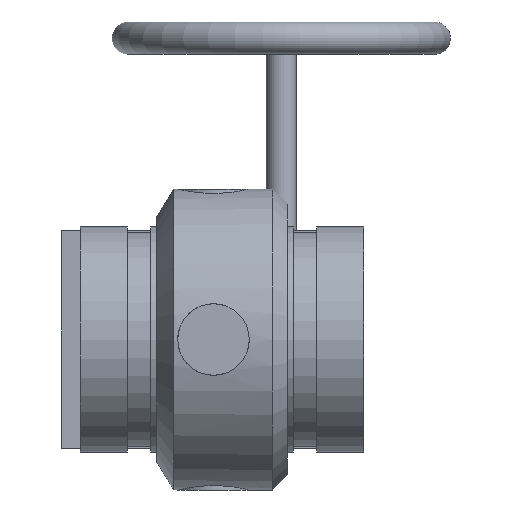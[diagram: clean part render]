
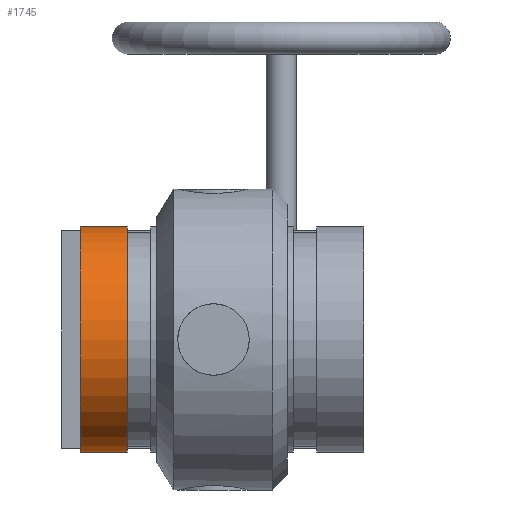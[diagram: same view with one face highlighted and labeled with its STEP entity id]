
A CAD part, front view. The second image highlights one B-rep face of the part: STEP entity #1745.
In plain terms, the highlighted cylindrical face has radius 38.1 mm (diameter 76.2 mm), a full revolution.
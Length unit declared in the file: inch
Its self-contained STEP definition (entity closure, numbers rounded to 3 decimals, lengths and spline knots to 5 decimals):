
#69=CYLINDRICAL_SURFACE('',#1936,1.5);
#173=CIRCLE('',#1934,1.5);
#174=CIRCLE('',#1935,1.5);
#175=CIRCLE('',#1937,1.5);
#176=CIRCLE('',#1938,1.5);
#277=FACE_OUTER_BOUND('',#387,.T.);
#387=EDGE_LOOP('',(#1421,#1422,#1423,#1424,#1425,#1426));
#515=LINE('',#3196,#628);
#628=VECTOR('',#2398,1.5);
#776=VERTEX_POINT('',#3187);
#777=VERTEX_POINT('',#3188);
#778=VERTEX_POINT('',#3192);
#779=VERTEX_POINT('',#3193);
#1004=EDGE_CURVE('',#776,#777,#173,.T.);
#1005=EDGE_CURVE('',#777,#776,#174,.T.);
#1006=EDGE_CURVE('',#778,#779,#175,.T.);
#1007=EDGE_CURVE('',#779,#778,#176,.T.);
#1008=EDGE_CURVE('',#779,#777,#515,.T.);
#1421=ORIENTED_EDGE('',*,*,#1006,.F.);
#1422=ORIENTED_EDGE('',*,*,#1007,.F.);
#1423=ORIENTED_EDGE('',*,*,#1008,.T.);
#1424=ORIENTED_EDGE('',*,*,#1005,.T.);
#1425=ORIENTED_EDGE('',*,*,#1004,.T.);
#1426=ORIENTED_EDGE('',*,*,#1008,.F.);
#1745=ADVANCED_FACE('',(#277),#69,.T.);
#1934=AXIS2_PLACEMENT_3D('',#3189,#2388,#2389);
#1935=AXIS2_PLACEMENT_3D('',#3190,#2390,#2391);
#1936=AXIS2_PLACEMENT_3D('',#3191,#2392,#2393);
#1937=AXIS2_PLACEMENT_3D('',#3194,#2394,#2395);
#1938=AXIS2_PLACEMENT_3D('',#3195,#2396,#2397);
#2388=DIRECTION('center_axis',(1.,0.,0.));
#2389=DIRECTION('ref_axis',(0.,0.,-1.));
#2390=DIRECTION('center_axis',(1.,0.,0.));
#2391=DIRECTION('ref_axis',(0.,0.,-1.));
#2392=DIRECTION('center_axis',(1.,0.,0.));
#2393=DIRECTION('ref_axis',(0.,1.,0.));
#2394=DIRECTION('center_axis',(1.,0.,0.));
#2395=DIRECTION('ref_axis',(0.,0.,-1.));
#2396=DIRECTION('center_axis',(1.,0.,0.));
#2397=DIRECTION('ref_axis',(0.,0.,-1.));
#2398=DIRECTION('',(-1.,0.,0.));
#3187=CARTESIAN_POINT('',(-1.77,1.5,0.));
#3188=CARTESIAN_POINT('',(-1.77,-1.5,0.));
#3189=CARTESIAN_POINT('Origin',(-1.77,0.,0.));
#3190=CARTESIAN_POINT('Origin',(-1.77,0.,0.));
#3191=CARTESIAN_POINT('Origin',(-1.4575,0.,0.));
#3192=CARTESIAN_POINT('',(-1.145,1.5,0.));
#3193=CARTESIAN_POINT('',(-1.145,-1.5,0.));
#3194=CARTESIAN_POINT('Origin',(-1.145,0.,0.));
#3195=CARTESIAN_POINT('Origin',(-1.145,0.,0.));
#3196=CARTESIAN_POINT('',(-1.4575,-1.5,0.));
